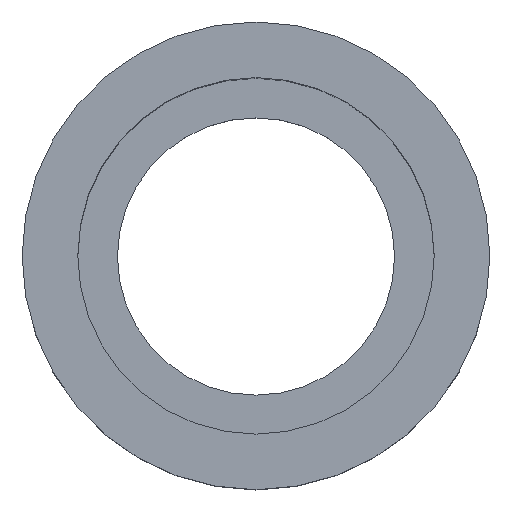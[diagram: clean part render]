
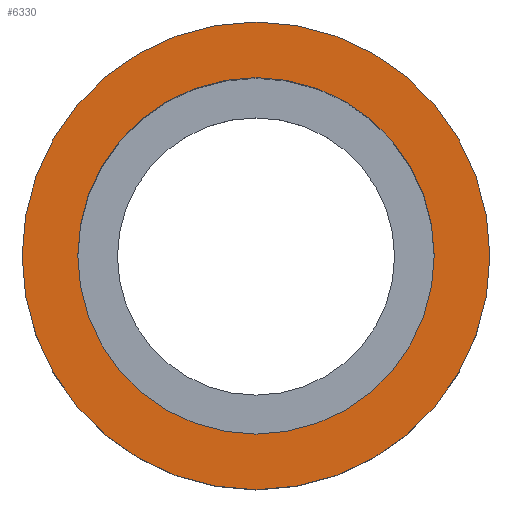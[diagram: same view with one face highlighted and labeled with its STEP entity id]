
A CAD part, top view. The second image highlights one B-rep face of the part: STEP entity #6330.
In plain terms, the highlighted planar face has unit normal (0, 0, 1) as drawn and (0, -1, 0) by its records, which use the part's own axes.
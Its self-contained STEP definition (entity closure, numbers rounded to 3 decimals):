
#5460=CARTESIAN_POINT('',(-7.65,-43.916,
0.));
#5470=VERTEX_POINT('',#5460);
#5670=CARTESIAN_POINT('',(26.95,-43.916,0.)
);
#5680=VERTEX_POINT('',#5670);
#5710=CARTESIAN_POINT('',(9.65,-43.916,
0.));
#5720=DIRECTION('',(0.,-1.,0.));
#5730=DIRECTION('',(-1.,-0.,0.));
#5740=AXIS2_PLACEMENT_3D('',#5710,#5720,#5730);
#5750=CIRCLE('',#5740,17.3);
#5760=CARTESIAN_POINT('',(9.65,-43.916,-17.3));
#5770=VERTEX_POINT('',#5760);
#5780=EDGE_CURVE('',#5770,#5680,#5750,.T.);
#5800=EDGE_CURVE('',#5470,#5770,#5750,.T.);
#6030=CARTESIAN_POINT('',(33.485,-43.916,-23.835));
#6040=DIRECTION('',(0.,-1.,0.));
#6050=DIRECTION('',(-1.,-0.,0.));
#6060=AXIS2_PLACEMENT_3D('',#6030,#6040,#6050);
#6070=PLANE('',#6060);
#6080=CARTESIAN_POINT('',(9.65,-43.916,
0.));
#6090=DIRECTION('',(0.,-1.,0.));
#6100=DIRECTION('',(-1.,0.,0.));
#6110=AXIS2_PLACEMENT_3D('',#6080,#6090,#6100);
#6120=CIRCLE('',#6110,22.7);
#6130=CARTESIAN_POINT('',(-13.05,-43.916,0.
));
#6140=VERTEX_POINT('',#6130);
#6150=CARTESIAN_POINT('',(32.35,-43.916,
0.));
#6160=VERTEX_POINT('',#6150);
#6170=EDGE_CURVE('',#6140,#6160,#6120,.T.);
#6180=ORIENTED_EDGE('',*,*,#6170,.T.);
#6190=CARTESIAN_POINT('',(9.65,-43.916,22.7));
#6200=VERTEX_POINT('',#6190);
#6210=EDGE_CURVE('',#6200,#6140,#6120,.T.);
#6220=ORIENTED_EDGE('',*,*,#6210,.T.);
#6230=EDGE_CURVE('',#6160,#6200,#6120,.T.);
#6240=ORIENTED_EDGE('',*,*,#6230,.T.);
#6250=EDGE_LOOP('',(#6240,#6220,#6180));
#6260=FACE_OUTER_BOUND('',#6250,.T.);
#6270=ORIENTED_EDGE('',*,*,#5780,.F.);
#6280=EDGE_CURVE('',#5680,#5470,#5750,.T.);
#6290=ORIENTED_EDGE('',*,*,#6280,.F.);
#6300=ORIENTED_EDGE('',*,*,#5800,.F.);
#6310=EDGE_LOOP('',(#6300,#6290,#6270));
#6320=FACE_BOUND('',#6310,.T.);
#6330=ADVANCED_FACE('',(#6260,#6320),#6070,.T.);
